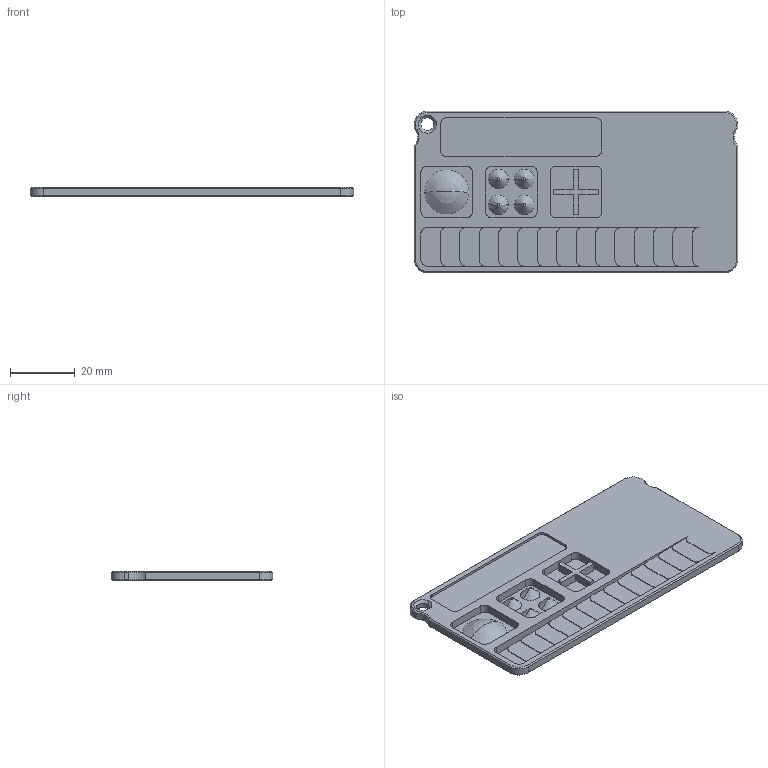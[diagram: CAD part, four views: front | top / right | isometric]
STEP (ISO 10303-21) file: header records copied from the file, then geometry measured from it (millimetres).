
FILE_DESCRIPTION(/* description */ (''),/* implementation_level */ '2;1');
FILE_NAME(/* name */ 'STE112',/* time_stamp */ '2023-08-28T21:10:43+02:00',/* author */ (''),/* organization */ (''),/* preprocessor_version */ 'ST-DEVELOPER v16.5',/* originating_system */ '',/* authorisation */ '');
FILE_SCHEMA (('AUTOMOTIVE_DESIGN'));
Length unit declared in the file: millimetre
Products named in the file (1): Document
Bounding box: 100 x 50 x 3 mm (x, y, z)
Volume: 11048.6 mm3; surface area: 11865.4 mm2
Topology: 1 solids, 1 shells, 185 faces, 480 edges, 307 vertices
Faces by surface type: plane 97, cylinder 58, bspline 30
Entity records: 4977 total; most frequent: CARTESIAN_POINT 2040, ORIENTED_EDGE 956, EDGE_CURVE 478, VERTEX_POINT 307, EDGE_LOOP 199, ADVANCED_FACE 185, FACE_OUTER_BOUND 185, DIRECTION 159
